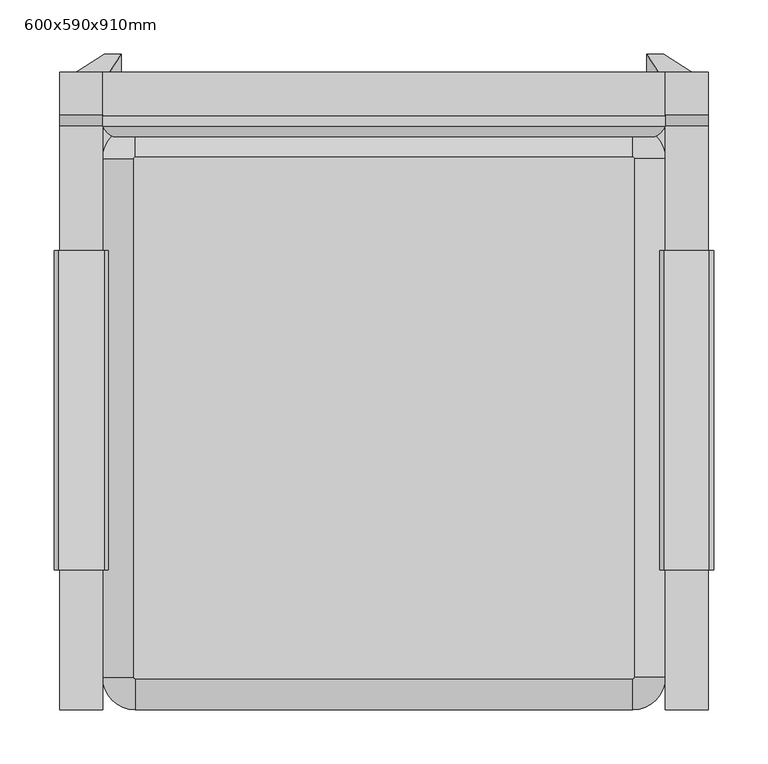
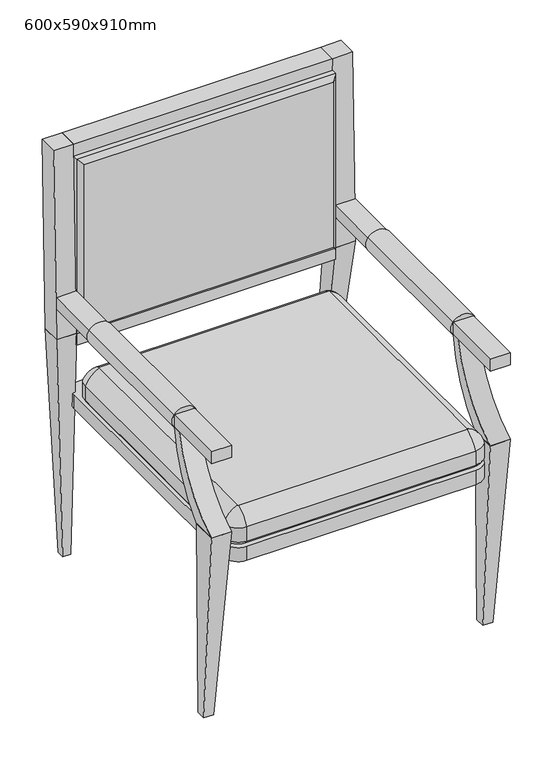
"""IFC4 building model written with IfcOpenShell, lengths in millimetres: furniture geometry, 의자 2 : 600x590x910mm."""

from ifc_helpers import new_model, si_unit, point, frame, frame_2d, origin, place, context, project, spatial, polyline, circle_curve, ellipse_curve, trimmed, segment, composite_curve, outline, extrude, faceted_brep, source, transform, mapped, element, save
from ifc_brep_helpers import plane_surface, cylinder_surface, revolved_surface, advanced_brep


def furniture_600x590x910mm_44f9a749(model_context):
    return source(origin(), model_context, "Body", "SolidModel", [
        extrude(outline(polyline([(285.0, 505.0), (245.0, 505.0), (255.0, 900.0), (295.0, 900.0), (285.0, 505.0)])), frame((260.0, 0.0, 0.0), z_axis=(1.0, 0.0, 0.0), x_axis=(0.0, 1.0, 0.0)), (0.0, 0.0, 1.0), 40.0),
        faceted_brep([(260.0, -242.7525759, 411.2170586), (260.0, -295.0, 411.2170586), (300.0, -295.0, 411.2170586), (300.0, -242.7525759, 411.2170586), (270.2858385, -230.3179079, 0.0), (290.2858385, -230.3179079, 0.0), (290.2858385, -250.3179079, 0.0), (270.2858385, -250.3179079, 0.0)], [[[0, 1, 2, 3]], [[4, 5, 6, 7]], [[4, 7, 1, 0]], [[7, 6, 2, 1]], [[6, 5, 3, 2]], [[5, 4, 0, 3]]]),
        faceted_brep([(-260.0, -242.7525759, 411.2170586), (-300.0, -242.7525759, 411.2170586), (-300.0, -295.0, 411.2170586), (-260.0, -295.0, 411.2170586), (-270.2858385, -230.3179079, 0.0), (-270.2858385, -250.3179079, 0.0), (-290.2858385, -250.3179079, 0.0), (-290.2858385, -230.3179079, 0.0)], [[[0, 1, 2, 3]], [[4, 5, 6, 7]], [[4, 7, 1, 0]], [[7, 6, 2, 1]], [[6, 5, 3, 2]], [[5, 4, 0, 3]]]),
        extrude(outline(composite_curve([segment(polyline([(-183.0894066, 569.1816439), (-165.7080998, 569.1816439)]), True, "CONTINUOUS"), segment(trimmed(circle_curve(frame_2d((-407.9081208, 589.5396436)), 243.0541058), [point((-165.7080998, 569.1816439))], [point((-242.7525759, 411.2170586))], False, "CARTESIAN"), True, "CONTINUOUS"), segment(polyline([(-242.7525759, 411.2170586), (-295.0, 411.2170586)]), True, "CONTINUOUS"), segment(trimmed(circle_curve(frame_2d((-407.1028429, 609.2607604)), 227.57055), [point((-295.0, 411.2170586))], [point((-183.0894066, 569.1816439))], True, "CARTESIAN"), True, "CONTINUOUS")], self_intersect=False)), frame((260.0, 0.0, 0.0), z_axis=(1.0, 0.0, 0.0), x_axis=(0.0, 1.0, 0.0)), (0.0, 0.0, 1.0), 40.0),
        extrude(outline(composite_curve([segment(polyline([(-183.0894066, 569.1816439), (-165.7080998, 569.1816439)]), True, "CONTINUOUS"), segment(trimmed(circle_curve(frame_2d((-407.9081208, 589.5396436)), 243.0541058), [point((-165.7080998, 569.1816439))], [point((-242.7525759, 411.2170586))], False, "CARTESIAN"), True, "CONTINUOUS"), segment(polyline([(-242.7525759, 411.2170586), (-295.0, 411.2170586)]), True, "CONTINUOUS"), segment(trimmed(circle_curve(frame_2d((-407.1028429, 609.2607604)), 227.57055), [point((-295.0, 411.2170586))], [point((-183.0894066, 569.1816439))], True, "CARTESIAN"), True, "CONTINUOUS")], self_intersect=False)), frame((-300.0, 0.0, 0.0), z_axis=(1.0, 0.0, 0.0), x_axis=(0.0, 1.0, 0.0)), (0.0, 0.0, 1.0), 40.0),
        extrude(outline(composite_curve([segment(trimmed(circle_curve(frame_2d((230.0, 255.0)), 30.0), [point((230.0, 285.0))], [point((260.0, 255.0))], False, "CARTESIAN"), True, "CONTINUOUS"), segment(polyline([(260.0, 255.0), (260.0, -265.0)]), True, "CONTINUOUS"), segment(trimmed(circle_curve(frame_2d((230.0, -265.0)), 30.0), [point((260.0, -265.0))], [point((230.0, -295.0))], False, "CARTESIAN"), True, "CONTINUOUS"), segment(polyline([(230.0, -295.0), (-230.0, -295.0)]), True, "CONTINUOUS"), segment(trimmed(circle_curve(frame_2d((-230.0, -265.0)), 30.0), [point((-230.0, -295.0))], [point((-260.0, -265.0))], False, "CARTESIAN"), True, "CONTINUOUS"), segment(polyline([(-260.0, -265.0), (-260.0, 255.0)]), True, "CONTINUOUS"), segment(trimmed(circle_curve(frame_2d((-230.0, 255.0)), 30.0), [point((-260.0, 255.0))], [point((-230.0, 285.0))], False, "CARTESIAN"), True, "CONTINUOUS"), segment(polyline([(-230.0, 285.0), (230.0, 285.0)]), True, "CONTINUOUS")], self_intersect=False)), frame((0.0, 0.0, 340.0), z_axis=(0.0, 0.0, 1.0), x_axis=(1.0, 0.0, 0.0)), (0.0, 0.0, 1.0), 30.0),
        faceted_brep([(260.0, 285.0, 505.0), (260.0, 245.0, 505.0), (300.0, 245.0, 505.0), (300.0, 285.0, 505.0), (242.9406494, 311.5924294, 0.0), (258.5439528, 311.5924294, 0.0), (258.5439528, 295.0, 0.0), (242.9406494, 295.0, 0.0)], [[[0, 1, 2, 3]], [[4, 5, 6, 7]], [[1, 0, 4, 7]], [[2, 1, 7, 6]], [[3, 2, 6, 5]], [[0, 3, 5, 4]]]),
        advanced_brep(
        [(-250.3030294, 235.0, 865.3030294), (-250.3030294, 235.0, 514.6969706), (250.3030294, 235.0, 514.6969706), (250.3030294, 235.0, 865.3030294), (-250.3030294, 295.0, 514.6969706), (-250.3030294, 295.0, 865.3030294), (250.3030294, 295.0, 865.3030294), (250.3030294, 295.0, 514.6969706), (260.0, 244.6969706, 875.0), (260.0, 285.3030294, 875.0), (-260.0, 285.3030294, 875.0), (-260.0, 244.6969706, 875.0), (-260.0, 285.3030294, 505.0), (-260.0, 244.6969706, 505.0), (260.0, 285.3030294, 505.0), (260.0, 244.6969706, 505.0)],
        [
            (0, 1),
            (1, 2),
            (2, 3),
            (3, 0),
            (4, 5),
            (5, 6),
            (6, 7),
            (7, 4),
            (8, 9),
            (9, 10),
            (10, 11),
            (11, 8),
            (10, 12),
            (12, 13),
            (13, 11),
            (12, 14),
            (14, 15),
            (15, 13),
            (8, 15),
            (14, 9),
            (13, 1, ellipse_curve(frame((-242.3916398, 252.6083602, 522.6083602), z_axis=(-0.7071067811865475, 0.0, 0.7071067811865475), x_axis=(-0.7071067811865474, 0.0, -0.7071067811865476)), 27.2999793, 19.3040005)),
            (0, 11, ellipse_curve(frame((-242.3916398, 252.6083602, 857.3916398), z_axis=(-0.7071067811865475, 0.0, -0.7071067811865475), x_axis=(0.7071067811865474, 0.0, -0.7071067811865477)), 27.2999793, 19.3040005)),
            (4, 12, ellipse_curve(frame((-242.3916398, 277.3916398, 522.6083602), z_axis=(-0.7071067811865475, 0.0, 0.7071067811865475), x_axis=(-0.7071067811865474, 0.0, -0.7071067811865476)), 27.2999793, 19.3040005)),
            (10, 5, ellipse_curve(frame((-242.3916398, 277.3916398, 857.3916398), z_axis=(-0.7071067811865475, 0.0, -0.7071067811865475), x_axis=(0.7071067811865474, 0.0, -0.7071067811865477)), 27.2999793, 19.3040005)),
            (15, 2, ellipse_curve(frame((242.3916398, 252.6083602, 522.6083602), z_axis=(-0.7071067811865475, 0.0, -0.7071067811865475), x_axis=(0.7071067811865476, 0.0, -0.7071067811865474)), 27.2999793, 19.3040005)),
            (7, 14, ellipse_curve(frame((242.3916398, 277.3916398, 522.6083602), z_axis=(-0.7071067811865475, 0.0, -0.7071067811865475), x_axis=(0.7071067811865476, 0.0, -0.7071067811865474)), 27.2999793, 19.3040005)),
            (8, 3, ellipse_curve(frame((242.3916398, 252.6083602, 857.3916398), z_axis=(0.7071067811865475, 0.0, -0.7071067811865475), x_axis=(0.7071067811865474, 0.0, 0.7071067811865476)), 27.2999793, 19.3040005)),
            (6, 9, ellipse_curve(frame((242.3916398, 277.3916398, 857.3916398), z_axis=(0.7071067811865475, 0.0, -0.7071067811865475), x_axis=(0.7071067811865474, 0.0, 0.7071067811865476)), 27.2999793, 19.3040005)),
        ],
        [
            plane_surface(frame((-260.0, 235.0, 875.0), z_axis=(0.0, -1.0, 0.0), x_axis=(-1.0, 0.0, 0.0))),
            plane_surface(frame((-260.0, 295.0, 875.0), z_axis=(0.0, 1.0, 0.0), x_axis=(1.0, 0.0, 0.0))),
            plane_surface(frame((260.0, 235.0, 875.0), z_axis=(0.0, 0.0, 1.0), x_axis=(0.0, 1.0, 0.0))),
            plane_surface(frame((-260.0, 235.0, 875.0), z_axis=(-1.0, 0.0, 0.0), x_axis=(0.0, 1.0, 0.0))),
            plane_surface(frame((-260.0, 235.0, 505.0), z_axis=(0.0, 0.0, -1.0), x_axis=(0.0, 1.0, 0.0))),
            plane_surface(frame((260.0, 235.0, 505.0), z_axis=(1.0, 0.0, 0.0), x_axis=(0.0, 1.0, 0.0))),
            cylinder_surface(frame((-242.3916398, 252.6083602, 875.0), z_axis=(0.0, 0.0, -1.0), x_axis=(0.0, -1.0, 0.0)), 19.3040005),
            cylinder_surface(frame((-242.3916398, 277.3916398, 875.0), z_axis=(0.0, 0.0, -1.0), x_axis=(0.0, 1.0, 0.0)), 19.3040005),
            cylinder_surface(frame((-260.0, 252.6083602, 522.6083602), z_axis=(1.0, 0.0, 0.0), x_axis=(0.0, -1.0, 0.0)), 19.3040005),
            cylinder_surface(frame((-260.0, 277.3916398, 522.6083602), z_axis=(1.0, 0.0, 0.0), x_axis=(0.0, 1.0, 0.0)), 19.3040005),
            cylinder_surface(frame((242.3916398, 252.6083602, 505.0), z_axis=(0.0, 0.0, 1.0), x_axis=(0.0, -1.0, 0.0)), 19.3040005),
            cylinder_surface(frame((242.3916398, 277.3916398, 505.0), z_axis=(0.0, 0.0, 1.0), x_axis=(0.0, 1.0, 0.0)), 19.3040005),
            cylinder_surface(frame((260.0, 252.6083602, 857.3916398), z_axis=(-1.0, 0.0, 0.0), x_axis=(0.0, -1.0, 0.0)), 19.3040005),
            cylinder_surface(frame((260.0, 277.3916398, 857.3916398), z_axis=(-1.0, 0.0, 0.0), x_axis=(0.0, 1.0, 0.0)), 19.3040005),
        ],
        [
            (0, [[1, 2, 3, 4]]),
            (1, [[5, 6, 7, 8]]),
            (2, [[9, 10, 11, 12]]),
            (3, [[-11, 13, 14, 15]]),
            (4, [[-14, 16, 17, 18]]),
            (5, [[-9, 19, -17, 20]]),
            (6, [[21, -1, 22, -15]]),
            (7, [[23, -13, 24, -5]]),
            (8, [[-21, -18, 25, -2]]),
            (9, [[-23, -8, 26, -16]]),
            (10, [[-25, -19, 27, -3]]),
            (11, [[-26, -7, 28, -20]]),
            (12, [[-22, -4, -27, -12]]),
            (13, [[-24, -10, -28, -6]]),
        ],
    ),
        extrude(outline(composite_curve([segment(trimmed(circle_curve(frame_2d((582.5283009, 278.7076401)), 23.8874144), [point((595.8749578, 258.8966504))], [point((569.1816439, 258.8966504))], False, "CARTESIAN"), True, "CONTINUOUS"), segment(trimmed(circle_curve(frame_2d((589.4784621, 279.9386265)), 29.2356903), [point((569.1816439, 258.8966504))], [point((569.1816439, 300.9806026))], False, "CARTESIAN"), True, "CONTINUOUS"), segment(trimmed(circle_curve(frame_2d((582.5283009, 281.2838217)), 23.7927811), [point((569.1816439, 300.9806026))], [point((595.8749578, 300.9806026))], False, "CARTESIAN"), True, "CONTINUOUS"), segment(trimmed(circle_curve(frame_2d((578.2866722, 279.9386265)), 27.4246704), [point((595.8749578, 300.9806026))], [point((595.8749578, 258.8966504))], False, "CARTESIAN"), True, "CONTINUOUS")], self_intersect=False), holes=[polyline([(595.0, 260.0), (595.0, 300.0), (570.0, 300.0), (570.0, 260.0), (595.0, 260.0)])]), frame((0.0, -165.7080998, 0.0), z_axis=(0.0, 1.0, 0.0), x_axis=(0.0, 0.0, 1.0)), (0.0, 0.0, 1.0), 295.616793),
        extrude(outline(composite_curve([segment(trimmed(circle_curve(frame_2d((578.2866722, -279.9386265)), 27.4246704), [point((595.8749578, -258.8966504))], [point((595.8749578, -300.9806026))], False, "CARTESIAN"), True, "CONTINUOUS"), segment(trimmed(circle_curve(frame_2d((582.5283009, -281.2838217)), 23.7927811), [point((595.8749578, -300.9806026))], [point((569.1816439, -300.9806026))], False, "CARTESIAN"), True, "CONTINUOUS"), segment(trimmed(circle_curve(frame_2d((589.4784621, -279.9386265)), 29.2356903), [point((569.1816439, -300.9806026))], [point((569.1816439, -258.8966504))], False, "CARTESIAN"), True, "CONTINUOUS"), segment(trimmed(circle_curve(frame_2d((582.5283009, -278.7076401)), 23.8874144), [point((569.1816439, -258.8966504))], [point((595.8749578, -258.8966504))], False, "CARTESIAN"), True, "CONTINUOUS")], self_intersect=False), holes=[polyline([(595.0, -260.0), (570.0, -260.0), (570.0, -300.0), (595.0, -300.0), (595.0, -260.0)])]), frame((0.0, -165.7080998, 0.0), z_axis=(0.0, 1.0, 0.0), x_axis=(0.0, 0.0, 1.0)), (0.0, 0.0, 1.0), 295.616793),
        faceted_brep([(-300.0, -295.0, 595.0), (-300.0, 245.0, 595.0), (-300.0, 245.0, 570.0), (-300.0, -295.0, 570.0), (-260.0, -295.0, 595.0), (-260.0, -295.0, 570.0), (-260.0, 235.0, 570.0), (-260.0, 244.6969706, 570.0), (-260.0, 245.0, 570.0), (-260.0, 245.0, 595.0), (-260.0, 244.6969706, 595.0), (-260.0, 235.0, 595.0)], [[[0, 1, 2, 3]], [[4, 5, 6, 7, 8, 9, 10, 11]], [[1, 0, 4, 11, 10, 9]], [[2, 1, 9, 8]], [[3, 2, 8, 7, 6, 5]], [[0, 3, 5, 4]]]),
        faceted_brep([(300.0, -295.0, 595.0), (300.0, -295.0, 570.0), (300.0, 245.0, 570.0), (300.0, 245.0, 595.0), (260.0, 245.0, 595.0), (260.0, 245.0, 570.0), (260.0, 244.6969706, 570.0), (260.0, 235.0, 570.0), (260.0, -295.0, 570.0), (260.0, -295.0, 595.0), (260.0, 235.0, 595.0), (260.0, 244.6969706, 595.0)], [[[0, 1, 2, 3]], [[4, 5, 6, 7, 8, 9, 10, 11]], [[1, 0, 9, 8]], [[2, 1, 8, 7, 6, 5]], [[3, 2, 5, 4]], [[0, 3, 4, 11, 10, 9]]]),
        faceted_brep([(260.0, 254.4011762, 900.0), (-260.0, 254.4011762, 900.0), (-260.0, 254.4011762, 875.0), (260.0, 254.4011762, 875.0), (260.0, 295.0, 900.0), (260.0, 295.0, 875.0), (-260.0, 295.0, 875.0), (-260.0, 295.0, 900.0), (-260.0, 285.3030294, 875.0), (260.0, 285.3030294, 875.0)], [[[0, 1, 2, 3]], [[4, 5, 6, 7]], [[1, 0, 4, 7]], [[2, 1, 7, 6, 8]], [[3, 2, 8, 6, 5, 9]], [[0, 3, 9, 5, 4]]]),
        extrude(outline(polyline([(260.0, 245.0), (-260.0, 245.0), (-260.0, 285.0), (260.0, 285.0), (260.0, 245.0)])), frame((0.0, 0.0, 480.0), z_axis=(0.0, 0.0, 1.0), x_axis=(1.0, 0.0, 0.0)), (0.0, 0.0, 1.0), 25.0),
        faceted_brep([(-260.0, 285.0, 505.0), (-300.0, 285.0, 505.0), (-300.0, 245.0, 505.0), (-260.0, 245.0, 505.0), (-242.9406494, 311.5924294, 0.0), (-242.9406494, 295.0, 0.0), (-258.5439528, 295.0, 0.0), (-258.5439528, 311.5924294, 0.0)], [[[0, 1, 2, 3]], [[4, 5, 6, 7]], [[1, 0, 4, 7]], [[2, 1, 7, 6]], [[3, 2, 6, 5]], [[0, 3, 5, 4]]]),
        faceted_brep([(-300.0, 285.0, 505.0), (-300.0, 245.0, 505.0), (-300.0, 255.0, 900.0), (-300.0, 295.0, 900.0), (-260.0, 295.0, 900.0), (-260.0, 255.0, 900.0), (-260.0, 245.0, 505.0), (-260.0, 285.0, 505.0), (-260.0, 285.3030294, 516.9696624), (-260.0, 294.3670886, 875.0)], [[[0, 1, 2, 3]], [[4, 5, 6, 7, 8, 9]], [[1, 0, 7, 6]], [[2, 1, 6, 5]], [[3, 2, 5, 4]], [[0, 3, 4, 9, 8, 7]]]),
        advanced_brep(
        [(230.0, -266.2170586, 440.0), (231.2170586, -265.0, 440.0), (231.2170586, 215.0, 440.0), (230.0, 216.2170586, 440.0), (-230.0, 216.2170586, 440.0), (-231.2170586, 215.0, 440.0), (-231.2170586, -265.0, 440.0), (-230.0, -266.2170586, 440.0), (248.7075006, -265.0, 370.0), (230.0, -283.7075006, 370.0), (-230.0, -283.7075006, 370.0), (-248.7075006, -265.0, 370.0), (-248.7075006, 215.0, 370.0), (-230.0, 233.7075006, 370.0), (230.0, 233.7075006, 370.0), (248.7075006, 215.0, 370.0), (-230.0, 245.0, 411.2170586), (230.0, 245.0, 411.2170586), (230.0, 245.0, 381.2924994), (-230.0, 245.0, 381.2924994), (-260.0, 215.0, 411.2170586), (-260.0, 215.0, 381.2924994), (-260.0, -265.0, 411.2170586), (-260.0, -265.0, 381.2924994), (-230.0, -295.0, 411.2170586), (-230.0, -295.0, 381.2924994), (230.0, -295.0, 411.2170586), (230.0, -295.0, 381.2924994), (260.0, -265.0, 411.2170586), (260.0, -265.0, 381.2924994), (260.0, 215.0, 411.2170586), (260.0, 215.0, 381.2924994)],
        [
            (0, 1, circle_curve(frame((230.0, -265.0, 440.0), z_axis=(0.0, 0.0, 1.0), x_axis=(0.0, -1.0, 0.0)), 1.2170586)),
            (1, 2),
            (2, 3, circle_curve(frame((230.0, 215.0, 440.0), z_axis=(0.0, 0.0, 1.0), x_axis=(1.0, 0.0, 0.0)), 1.2170586)),
            (3, 4),
            (4, 5, circle_curve(frame((-230.0, 215.0, 440.0), z_axis=(0.0, 0.0, 1.0), x_axis=(0.0, 1.0, 0.0)), 1.2170586)),
            (5, 6),
            (6, 7, circle_curve(frame((-230.0, -265.0, 440.0), z_axis=(0.0, 0.0, 1.0), x_axis=(-1.0, 0.0, 0.0)), 1.2170586)),
            (7, 0),
            (8, 9, circle_curve(frame((230.0, -265.0, 370.0), z_axis=(0.0, 0.0, -1.0), x_axis=(0.0, -1.0, 0.0)), 18.7075006)),
            (9, 10),
            (10, 11, circle_curve(frame((-230.0, -265.0, 370.0), z_axis=(0.0, 0.0, -1.0), x_axis=(-1.0, 0.0, 0.0)), 18.7075006)),
            (11, 12),
            (12, 13, circle_curve(frame((-230.0, 215.0, 370.0), z_axis=(0.0, 0.0, -1.0), x_axis=(0.0, 1.0, 0.0)), 18.7075006)),
            (13, 14),
            (14, 15, circle_curve(frame((230.0, 215.0, 370.0), z_axis=(0.0, 0.0, -1.0), x_axis=(1.0, 0.0, 0.0)), 18.7075006)),
            (15, 8),
            (16, 17),
            (17, 18),
            (18, 19),
            (19, 16),
            (20, 16, circle_curve(frame((-230.0, 215.0, 411.2170586), z_axis=(0.0, 0.0, -1.0), x_axis=(1.0, 0.0, 0.0)), 30.0)),
            (19, 21, circle_curve(frame((-230.0, 215.0, 381.2924994), z_axis=(0.0, 0.0, 1.0), x_axis=(1.0, 0.0, 0.0)), 30.0)),
            (21, 20),
            (22, 20),
            (21, 23),
            (23, 22),
            (24, 22, circle_curve(frame((-230.0, -265.0, 411.2170586), z_axis=(0.0, 0.0, -1.0), x_axis=(1.0, 0.0, 0.0)), 30.0)),
            (23, 25, circle_curve(frame((-230.0, -265.0, 381.2924994), z_axis=(0.0, 0.0, 1.0), x_axis=(1.0, 0.0, 0.0)), 30.0)),
            (25, 24),
            (26, 24),
            (25, 27),
            (27, 26),
            (28, 26, circle_curve(frame((230.0, -265.0, 411.2170586), z_axis=(0.0, 0.0, -1.0), x_axis=(1.0, 0.0, 0.0)), 30.0)),
            (27, 29, circle_curve(frame((230.0, -265.0, 381.2924994), z_axis=(0.0, 0.0, 1.0), x_axis=(1.0, 0.0, 0.0)), 30.0)),
            (29, 28),
            (30, 28),
            (29, 31),
            (31, 30),
            (17, 30, circle_curve(frame((230.0, 215.0, 411.2170586), z_axis=(0.0, 0.0, -1.0), x_axis=(1.0, 0.0, 0.0)), 30.0)),
            (31, 18, circle_curve(frame((230.0, 215.0, 381.2924994), z_axis=(0.0, 0.0, 1.0), x_axis=(1.0, 0.0, 0.0)), 30.0)),
            (28, 1, circle_curve(frame((211.7783488, -265.0, 391.7783488), z_axis=(0.0, -1.0, 0.0), x_axis=(1.0, 0.0, 0.0)), 51.9922214)),
            (0, 26, circle_curve(frame((230.0, -246.7783488, 391.7783488), z_axis=(1.0, 0.0, 0.0), x_axis=(0.0, -1.0, 0.0)), 51.9922214)),
            (30, 2, circle_curve(frame((211.7783488, 215.0, 391.7783488), z_axis=(0.0, -1.0, 0.0), x_axis=(1.0, 0.0, 0.0)), 51.9922214)),
            (17, 3, circle_curve(frame((230.0, 196.7783488, 391.7783488), z_axis=(1.0, 0.0, 0.0), x_axis=(0.0, 1.0, 0.0)), 51.9922214)),
            (16, 4, circle_curve(frame((-230.0, 196.7783488, 391.7783488), z_axis=(1.0, 0.0, 0.0), x_axis=(0.0, 1.0, 0.0)), 51.9922214)),
            (20, 5, circle_curve(frame((-211.7783488, 215.0, 391.7783488), z_axis=(0.0, 1.0, 0.0), x_axis=(-1.0, 0.0, 0.0)), 51.9922214)),
            (22, 6, circle_curve(frame((-211.7783488, -265.0, 391.7783488), z_axis=(0.0, 1.0, 0.0), x_axis=(-1.0, 0.0, 0.0)), 51.9922214)),
            (24, 7, circle_curve(frame((-230.0, -246.7783488, 391.7783488), z_axis=(-1.0, 0.0, 0.0), x_axis=(0.0, -1.0, 0.0)), 51.9922214)),
            (8, 29, circle_curve(frame((237.8310008, -265.0, 392.1689992), z_axis=(0.0, -1.0, 0.0), x_axis=(1.0, 0.0, 0.0)), 24.6933751)),
            (27, 9, circle_curve(frame((230.0, -272.8310008, 392.1689992), z_axis=(1.0, 0.0, 0.0), x_axis=(0.0, -1.0, 0.0)), 24.6933751)),
            (15, 31, circle_curve(frame((237.8310008, 215.0, 392.1689992), z_axis=(0.0, -1.0, 0.0), x_axis=(1.0, 0.0, 0.0)), 24.6933751)),
            (14, 18, circle_curve(frame((230.0, 222.8310008, 392.1689992), z_axis=(1.0, 0.0, 0.0), x_axis=(0.0, 1.0, 0.0)), 24.6933751)),
            (13, 19, circle_curve(frame((-230.0, 222.8310008, 392.1689992), z_axis=(1.0, 0.0, 0.0), x_axis=(0.0, 1.0, 0.0)), 24.6933751)),
            (12, 21, circle_curve(frame((-237.8310008, 215.0, 392.1689992), z_axis=(0.0, 1.0, 0.0), x_axis=(-1.0, 0.0, 0.0)), 24.6933751)),
            (11, 23, circle_curve(frame((-237.8310008, -265.0, 392.1689992), z_axis=(0.0, 1.0, 0.0), x_axis=(-1.0, 0.0, 0.0)), 24.6933751)),
            (10, 25, circle_curve(frame((-230.0, -272.8310008, 392.1689992), z_axis=(-1.0, 0.0, 0.0), x_axis=(0.0, -1.0, 0.0)), 24.6933751)),
        ],
        [
            plane_surface(frame((-260.0, 245.0, 440.0), z_axis=(0.0, 0.0, 1.0), x_axis=(-1.0, 0.0, 0.0))),
            plane_surface(frame((-260.0, 245.0, 370.0), z_axis=(0.0, 0.0, -1.0), x_axis=(1.0, 0.0, 0.0))),
            plane_surface(frame((230.0, 245.0, 440.0), z_axis=(0.0, 1.0, 0.0), x_axis=(0.0, 0.0, -1.0))),
            cylinder_surface(frame((-230.0, 215.0, 370.0), z_axis=(0.0, 0.0, 1.0), x_axis=(1.0, 0.0, 0.0)), 30.0),
            plane_surface(frame((-260.0, 215.0, 440.0), z_axis=(-1.0, 0.0, 0.0), x_axis=(0.0, 0.0, -1.0))),
            cylinder_surface(frame((-230.0, -265.0, 370.0), z_axis=(0.0, 0.0, 1.0), x_axis=(1.0, 0.0, 0.0)), 30.0),
            plane_surface(frame((-230.0, -295.0, 440.0), z_axis=(0.0, -1.0, 0.0), x_axis=(0.0, 0.0, -1.0))),
            cylinder_surface(frame((230.0, -265.0, 370.0), z_axis=(0.0, 0.0, 1.0), x_axis=(1.0, 0.0, 0.0)), 30.0),
            plane_surface(frame((260.0, -265.0, 440.0), z_axis=(1.0, 0.0, 0.0), x_axis=(0.0, 0.0, -1.0))),
            cylinder_surface(frame((230.0, 215.0, 370.0), z_axis=(0.0, 0.0, 1.0), x_axis=(1.0, 0.0, 0.0)), 30.0),
            revolved_surface(trimmed(ellipse_curve(frame((230.0, -246.7783488, 391.7783488), z_axis=(-1.0, 0.0, 0.0), x_axis=(0.0, -1.0, 0.0)), 51.9922214, 51.9922214), [point((230.0, -295.343145, 410.343145))], [point((230.0, -265.343145, 440.343145))], True, "CARTESIAN"), (230.0, -265.0, 0.0), (0.0, 0.0, 1.0)),
            cylinder_surface(frame((211.7783488, -265.0, 391.7783488), z_axis=(0.0, 1.0, 0.0), x_axis=(1.0, 0.0, 0.0)), 51.9922214),
            revolved_surface(trimmed(ellipse_curve(frame((211.7783488, 215.0, 391.7783488), z_axis=(0.0, -1.0, 0.0), x_axis=(1.0, 0.0, 0.0)), 51.9922214, 51.9922214), [point((260.343145, 215.0, 410.343145))], [point((230.343145, 215.0, 440.343145))], True, "CARTESIAN"), (230.0, 215.0, 0.0), (0.0, 0.0, 1.0)),
            cylinder_surface(frame((230.0, 196.7783488, 391.7783488), z_axis=(-1.0, 0.0, 0.0), x_axis=(0.0, 1.0, 0.0)), 51.9922214),
            revolved_surface(trimmed(ellipse_curve(frame((-230.0, 196.7783488, 391.7783488), z_axis=(1.0, 0.0, 0.0), x_axis=(0.0, 1.0, 0.0)), 51.9922214, 51.9922214), [point((-230.0, 245.343145, 410.343145))], [point((-230.0, 215.343145, 440.343145))], True, "CARTESIAN"), (-230.0, 215.0, 0.0), (0.0, 0.0, 1.0)),
            cylinder_surface(frame((-211.7783488, 215.0, 391.7783488), z_axis=(0.0, -1.0, 0.0), x_axis=(-1.0, 0.0, 0.0)), 51.9922214),
            revolved_surface(trimmed(ellipse_curve(frame((-211.7783488, -265.0, 391.7783488), z_axis=(0.0, 1.0, 0.0), x_axis=(-1.0, 0.0, 0.0)), 51.9922214, 51.9922214), [point((-260.343145, -265.0, 410.343145))], [point((-230.343145, -265.0, 440.343145))], True, "CARTESIAN"), (-230.0, -265.0, 0.0), (0.0, 0.0, 1.0)),
            cylinder_surface(frame((-230.0, -246.7783488, 391.7783488), z_axis=(1.0, 0.0, 0.0), x_axis=(0.0, -1.0, 0.0)), 51.9922214),
            revolved_surface(trimmed(ellipse_curve(frame((230.0, -272.8310008, 392.1689992), z_axis=(-1.0, 0.0, 0.0), x_axis=(0.0, -1.0, 0.0)), 24.6933751, 24.6933751), [point((230.0, -283.7075006, 370.0))], [point((230.0, -295.0, 381.2924994))], True, "CARTESIAN"), (230.0, -265.0, 0.0), (0.0, 0.0, 1.0)),
            cylinder_surface(frame((237.8310008, -265.0, 392.1689992), z_axis=(0.0, 1.0, 0.0), x_axis=(1.0, 0.0, 0.0)), 24.6933751),
            revolved_surface(trimmed(ellipse_curve(frame((237.8310008, 215.0, 392.1689992), z_axis=(0.0, -1.0, 0.0), x_axis=(1.0, 0.0, 0.0)), 24.6933751, 24.6933751), [point((248.7075006, 215.0, 370.0))], [point((260.0, 215.0, 381.2924994))], True, "CARTESIAN"), (230.0, 215.0, 0.0), (0.0, 0.0, 1.0)),
            cylinder_surface(frame((230.0, 222.8310008, 392.1689992), z_axis=(-1.0, 0.0, 0.0), x_axis=(0.0, 1.0, 0.0)), 24.6933751),
            revolved_surface(trimmed(ellipse_curve(frame((-230.0, 222.8310008, 392.1689992), z_axis=(1.0, 0.0, 0.0), x_axis=(0.0, 1.0, 0.0)), 24.6933751, 24.6933751), [point((-230.0, 233.7075006, 370.0))], [point((-230.0, 245.0, 381.2924994))], True, "CARTESIAN"), (-230.0, 215.0, 0.0), (0.0, 0.0, 1.0)),
            cylinder_surface(frame((-237.8310008, 215.0, 392.1689992), z_axis=(0.0, -1.0, 0.0), x_axis=(-1.0, 0.0, 0.0)), 24.6933751),
            revolved_surface(trimmed(ellipse_curve(frame((-237.8310008, -265.0, 392.1689992), z_axis=(0.0, 1.0, 0.0), x_axis=(-1.0, 0.0, 0.0)), 24.6933751, 24.6933751), [point((-248.7075006, -265.0, 370.0))], [point((-260.0, -265.0, 381.2924994))], True, "CARTESIAN"), (-230.0, -265.0, 0.0), (0.0, 0.0, 1.0)),
            cylinder_surface(frame((-230.0, -272.8310008, 392.1689992), z_axis=(1.0, 0.0, 0.0), x_axis=(0.0, -1.0, 0.0)), 24.6933751),
        ],
        [
            (0, [[1, 2, 3, 4, 5, 6, 7, 8]]),
            (1, [[9, 10, 11, 12, 13, 14, 15, 16]]),
            (2, [[17, 18, 19, 20]]),
            (3, [[21, -20, 22, 23]]),
            (4, [[24, -23, 25, 26]]),
            (5, [[27, -26, 28, 29]]),
            (6, [[30, -29, 31, 32]]),
            (7, [[33, -32, 34, 35]]),
            (8, [[36, -35, 37, 38]]),
            (9, [[39, -38, 40, -18]]),
            (10, [[41, -1, 42, -33]]),
            (11, [[-41, -36, 43, -2]]),
            (12, [[-43, -39, 44, -3]]),
            (13, [[-44, -17, 45, -4]]),
            (14, [[-45, -21, 46, -5]]),
            (15, [[-46, -24, 47, -6]]),
            (16, [[-47, -27, 48, -7]]),
            (17, [[-48, -30, -42, -8]]),
            (18, [[49, -34, 50, -9]]),
            (19, [[-49, -16, 51, -37]]),
            (20, [[-51, -15, 52, -40]]),
            (21, [[-52, -14, 53, -19]]),
            (22, [[-53, -13, 54, -22]]),
            (23, [[-54, -12, 55, -25]]),
            (24, [[-55, -11, 56, -28]]),
            (25, [[-50, -31, -56, -10]]),
        ],
    ),
    ])


if __name__ == "__main__":
    model = new_model("IFC4")
    model_context = context("Model", 3, world=origin())
    ifc_project = project(units=[si_unit("LENGTHUNIT", "METRE", prefix="MILLI")], contexts=[model_context])
    site = spatial("IfcSite", under=ifc_project)
    building = spatial("IfcBuilding", under=site)
    placement = place(None, origin())
    furniture_600x590x910mm_shape = furniture_600x590x910mm_44f9a749(model_context)
    element("IfcFurniture", 1, ObjectType="의자 2 : 600x590x910mm", at=placement, inside=building, context=model_context, shape_type="MappedRepresentation", body=[
        mapped(furniture_600x590x910mm_shape, transform((0.0, 0.0, 0.0), x_axis=(1.0, 0.0, 0.0), y_axis=(0.0, 1.0, 0.0), z_axis=(0.0, 0.0, 1.0))),
    ])
    save(model, "model.ifc")
